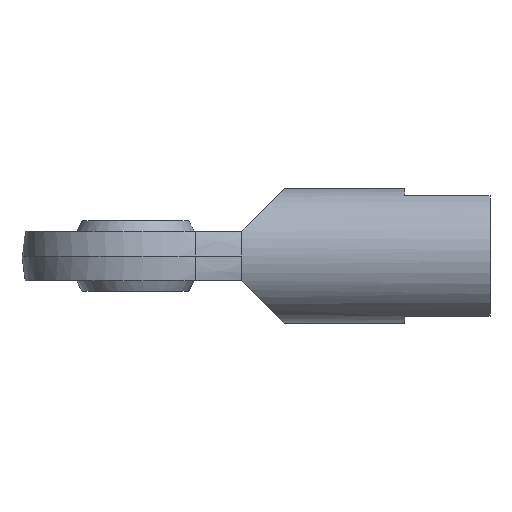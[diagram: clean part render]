
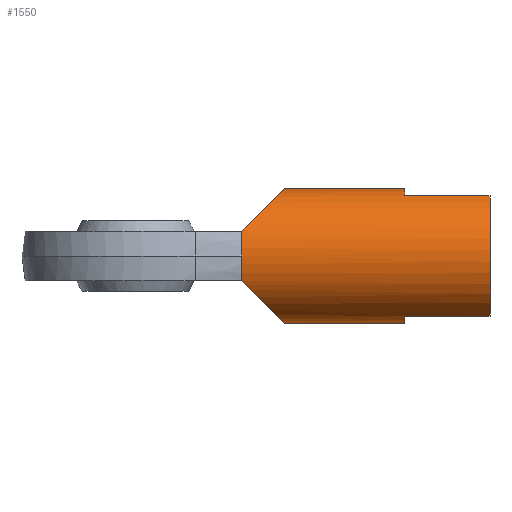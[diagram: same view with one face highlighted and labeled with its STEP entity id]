
A CAD part, front view. The second image highlights one B-rep face of the part: STEP entity #1550.
In plain terms, the highlighted cylindrical face has radius 9.5 mm (diameter 19 mm), a partial arc.
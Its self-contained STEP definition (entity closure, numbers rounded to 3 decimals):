
#8 = EDGE_CURVE ( 'NONE', #20, #9, #358, .T. ) ;
#9 = VERTEX_POINT ( 'NONE', #353 ) ;
#12 = VERTEX_POINT ( 'NONE', #347 ) ;
#20 = VERTEX_POINT ( 'NONE', #343 ) ;
#24 = EDGE_CURVE ( 'NONE', #32, #12, #338, .T. ) ;
#32 = VERTEX_POINT ( 'NONE', #379 ) ;
#338 = LINE ( 'NONE', #393, #392 ) ;
#343 = CARTESIAN_POINT ( 'NONE',  ( 15., -9.5, 0. ) ) ;
#347 = CARTESIAN_POINT ( 'NONE',  ( 38., 0., 9.5 ) ) ;
#353 = CARTESIAN_POINT ( 'NONE',  ( 15., -8.832, -3.5 ) ) ;
#354 = DIRECTION ( 'NONE',  ( 0., 1., 0. ) ) ;
#355 = DIRECTION ( 'NONE',  ( 1., 0., 0. ) ) ;
#356 = CARTESIAN_POINT ( 'NONE',  ( 15., 0., 0. ) ) ;
#357 = AXIS2_PLACEMENT_3D ( 'NONE', #356, #355, #354 ) ;
#358 = CIRCLE ( 'NONE', #357, 9.5 ) ;
#379 = CARTESIAN_POINT ( 'NONE',  ( 21., 0., 9.5 ) ) ;
#391 = DIRECTION ( 'NONE',  ( 1., 0., 0. ) ) ;
#392 = VECTOR ( 'NONE', #391, 1000. ) ;
#393 = CARTESIAN_POINT ( 'NONE',  ( 15., 0., 9.5 ) ) ;
#897 = CARTESIAN_POINT ( 'NONE',  ( 21., 0., -9.5 ) ) ;
#1005 = CARTESIAN_POINT ( 'NONE',  ( 38., -4.243, -8.5 ) ) ;
#1006 = DIRECTION ( 'NONE',  ( 0., 1., 0. ) ) ;
#1007 = DIRECTION ( 'NONE',  ( 1., 0., 0. ) ) ;
#1008 = CARTESIAN_POINT ( 'NONE',  ( 15., 0., 0. ) ) ;
#1009 = AXIS2_PLACEMENT_3D ( 'NONE', #1008, #1007, #1006 ) ;
#1010 = CIRCLE ( 'NONE', #1009, 9.5 ) ;
#1011 = DIRECTION ( 'NONE',  ( 0., 0., -1. ) ) ;
#1012 = DIRECTION ( 'NONE',  ( 1., 0., 0. ) ) ;
#1013 = AXIS2_PLACEMENT_3D ( 'NONE', #1014, #1012, #1011 ) ;
#1014 = CARTESIAN_POINT ( 'NONE',  ( 15., 0., 0. ) ) ;
#1015 = CYLINDRICAL_SURFACE ( 'NONE', #1013, 9.5 ) ;
#1016 = FACE_OUTER_BOUND ( 'NONE', #1592, .T. ) ;
#1017 = CARTESIAN_POINT ( 'NONE',  ( 15., -8.832, 3.5 ) ) ;
#1035 = CARTESIAN_POINT ( 'NONE',  ( 15., -8.832, -3.5 ) ) ;
#1036 = CARTESIAN_POINT ( 'NONE',  ( 18.74, -7.35, -7.24 ) ) ;
#1037 = CARTESIAN_POINT ( 'NONE',  ( 21., -4.022, -9.5 ) ) ;
#1038 = CARTESIAN_POINT ( 'NONE',  ( 21., 0., -9.5 ) ) ;
#1039 =( BOUNDED_CURVE ( )  B_SPLINE_CURVE ( 3, ( #1038, #1037, #1036, #1035 ),
 .UNSPECIFIED., .F., .F. ) 
 B_SPLINE_CURVE_WITH_KNOTS ( ( 4, 4 ),
 ( 0., 1.193 ),
 .UNSPECIFIED. ) 
 CURVE ( )  GEOMETRIC_REPRESENTATION_ITEM ( )  RATIONAL_B_SPLINE_CURVE ( ( 1., 0.885, 0.885, 1. ) ) 
 REPRESENTATION_ITEM ( '' )  );
#1040 = CARTESIAN_POINT ( 'NONE',  ( 50., -4.243, -8.5 ) ) ;
#1041 = DIRECTION ( 'NONE',  ( 0., 0., 1. ) ) ;
#1042 = DIRECTION ( 'NONE',  ( 1., 0., 0. ) ) ;
#1043 = CARTESIAN_POINT ( 'NONE',  ( 38., 0., 0. ) ) ;
#1044 = AXIS2_PLACEMENT_3D ( 'NONE', #1043, #1042, #1041 ) ;
#1045 = CIRCLE ( 'NONE', #1044, 9.5 ) ;
#1046 = CARTESIAN_POINT ( 'NONE',  ( 21., 0., 9.5 ) ) ;
#1047 = CARTESIAN_POINT ( 'NONE',  ( 21., -4.022, 9.5 ) ) ;
#1048 = CARTESIAN_POINT ( 'NONE',  ( 18.74, -7.35, 7.24 ) ) ;
#1049 = CARTESIAN_POINT ( 'NONE',  ( 15., -8.832, 3.5 ) ) ;
#1050 =( BOUNDED_CURVE ( )  B_SPLINE_CURVE ( 3, ( #1049, #1048, #1047, #1046 ),
 .UNSPECIFIED., .F., .T. ) 
 B_SPLINE_CURVE_WITH_KNOTS ( ( 4, 4 ),
 ( 5.09, 6.283 ),
 .UNSPECIFIED. ) 
 CURVE ( )  GEOMETRIC_REPRESENTATION_ITEM ( )  RATIONAL_B_SPLINE_CURVE ( ( 1., 0.885, 0.885, 1. ) ) 
 REPRESENTATION_ITEM ( '' )  );
#1054 = CARTESIAN_POINT ( 'NONE',  ( 38., -4.243, 8.5 ) ) ;
#1055 = DIRECTION ( 'NONE',  ( 0., 0., 1. ) ) ;
#1056 = DIRECTION ( 'NONE',  ( 1., 0., 0. ) ) ;
#1057 = CARTESIAN_POINT ( 'NONE',  ( 38., 0., 0. ) ) ;
#1058 = AXIS2_PLACEMENT_3D ( 'NONE', #1057, #1056, #1055 ) ;
#1059 = CIRCLE ( 'NONE', #1058, 9.5 ) ;
#1060 = DIRECTION ( 'NONE',  ( 1., 0., 0. ) ) ;
#1061 = VECTOR ( 'NONE', #1060, 1000. ) ;
#1062 = CARTESIAN_POINT ( 'NONE',  ( 15., -4.243, 8.5 ) ) ;
#1063 = LINE ( 'NONE', #1062, #1061 ) ;
#1064 = CARTESIAN_POINT ( 'NONE',  ( 50., -4.243, 8.5 ) ) ;
#1077 = DIRECTION ( 'NONE',  ( -1., 0., 0. ) ) ;
#1078 = VECTOR ( 'NONE', #1077, 1000. ) ;
#1079 = CARTESIAN_POINT ( 'NONE',  ( 15., -4.243, -8.5 ) ) ;
#1080 = LINE ( 'NONE', #1079, #1078 ) ;
#1084 = CARTESIAN_POINT ( 'NONE',  ( 38., 0., -9.5 ) ) ;
#1102 = DIRECTION ( 'NONE',  ( 0., 0., -1. ) ) ;
#1103 = DIRECTION ( 'NONE',  ( 1., 0., 0. ) ) ;
#1104 = CARTESIAN_POINT ( 'NONE',  ( 50., 0., 0. ) ) ;
#1105 = AXIS2_PLACEMENT_3D ( 'NONE', #1104, #1103, #1102 ) ;
#1106 = CIRCLE ( 'NONE', #1105, 9.5 ) ;
#1135 = DIRECTION ( 'NONE',  ( 1., 0., 0. ) ) ;
#1136 = VECTOR ( 'NONE', #1135, 1000. ) ;
#1137 = CARTESIAN_POINT ( 'NONE',  ( 15., 0., -9.5 ) ) ;
#1138 = LINE ( 'NONE', #1137, #1136 ) ;
#1495 = VERTEX_POINT ( 'NONE', #897 ) ;
#1549 = VERTEX_POINT ( 'NONE', #1017 ) ;
#1550 = ADVANCED_FACE ( 'NONE', ( #1016 ), #1015, .T. ) ;
#1551 = ORIENTED_EDGE ( 'NONE', *, *, #1555, .T. ) ;
#1552 = ORIENTED_EDGE ( 'NONE', *, *, #1556, .F. ) ;
#1553 = ORIENTED_EDGE ( 'NONE', *, *, #24, .F. ) ;
#1554 = ORIENTED_EDGE ( 'NONE', *, *, #8, .T. ) ;
#1555 = EDGE_CURVE ( 'NONE', #1549, #20, #1010, .T. ) ;
#1556 = EDGE_CURVE ( 'NONE', #1549, #32, #1050, .T. ) ;
#1557 = VERTEX_POINT ( 'NONE', #1005 ) ;
#1558 = EDGE_CURVE ( 'NONE', #1557, #1596, #1045, .T. ) ;
#1559 = ORIENTED_EDGE ( 'NONE', *, *, #1627, .T. ) ;
#1560 = ORIENTED_EDGE ( 'NONE', *, *, #1563, .F. ) ;
#1561 = ORIENTED_EDGE ( 'NONE', *, *, #1558, .F. ) ;
#1562 = VERTEX_POINT ( 'NONE', #1040 ) ;
#1563 = EDGE_CURVE ( 'NONE', #1495, #9, #1039, .T. ) ;
#1564 = EDGE_CURVE ( 'NONE', #1562, #1557, #1080, .T. ) ;
#1565 = ORIENTED_EDGE ( 'NONE', *, *, #1582, .F. ) ;
#1566 = ORIENTED_EDGE ( 'NONE', *, *, #1564, .F. ) ;
#1571 = ORIENTED_EDGE ( 'NONE', *, *, #1578, .F. ) ;
#1575 = VERTEX_POINT ( 'NONE', #1064 ) ;
#1576 = ORIENTED_EDGE ( 'NONE', *, *, #1577, .F. ) ;
#1577 = EDGE_CURVE ( 'NONE', #1579, #1575, #1063, .T. ) ;
#1578 = EDGE_CURVE ( 'NONE', #12, #1579, #1059, .T. ) ;
#1579 = VERTEX_POINT ( 'NONE', #1054 ) ;
#1582 = EDGE_CURVE ( 'NONE', #1575, #1562, #1106, .T. ) ;
#1592 = EDGE_LOOP ( 'NONE', ( #1553, #1552, #1551, #1554, #1560, #1559, #1561, #1566, #1565, #1576, #1571 ) ) ;
#1596 = VERTEX_POINT ( 'NONE', #1084 ) ;
#1627 = EDGE_CURVE ( 'NONE', #1495, #1596, #1138, .T. ) ;
